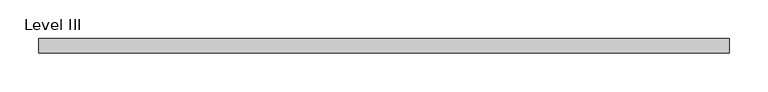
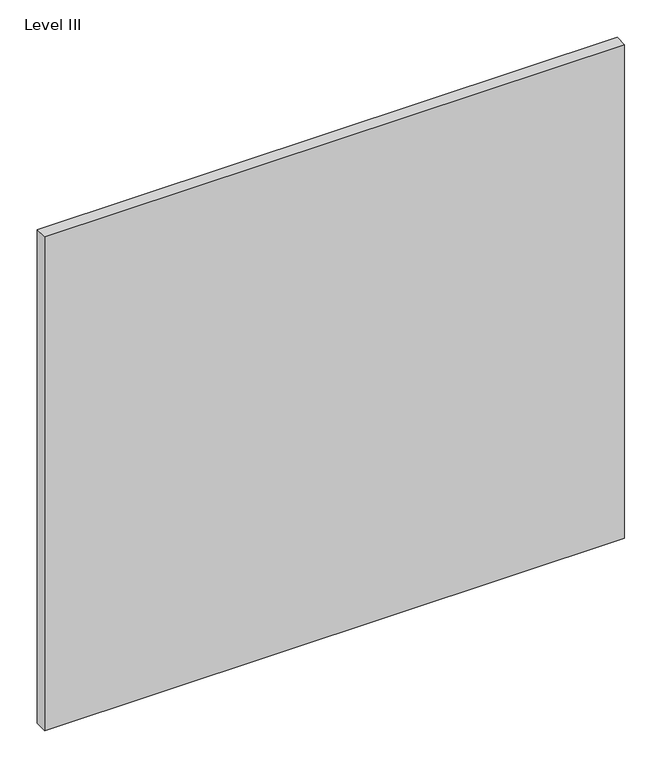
"""IFC4 building model written with IfcOpenShell, lengths in millimetres: proxy geometry, Panel-Fascia-Teknion-Altos-Standard : Level III."""

from ifc_helpers import new_model, si_unit, frame, origin, place, context, project, spatial, polyline, outline, extrude, source, transform, mapped, element, save


def level_iii_3557bc1e(model_context):
    return source(origin(), model_context, "Body", "SweptSolid", [
        extrude(outline(polyline([(447.0300781, 9.525), (447.0300781, -9.525), (-447.0300781, -9.525), (-447.0300781, 9.525), (447.0300781, 9.525)])), frame((0.0, 0.0, 3.175), z_axis=(0.0, 0.0, 1.0), x_axis=(1.0, 0.0, 0.0)), (0.0, 0.0, 1.0), 804.418),
    ])


if __name__ == "__main__":
    model = new_model("IFC4")
    model_context = context("Model", 3, world=origin())
    ifc_project = project(units=[si_unit("LENGTHUNIT", "METRE", prefix="MILLI")], contexts=[model_context])
    site = spatial("IfcSite", under=ifc_project)
    building = spatial("IfcBuilding", under=site)
    placement = place(None, origin())
    level_iii_shape = level_iii_3557bc1e(model_context)
    element("IfcBuildingElementProxy", 1, Name="Panel-Fascia-Teknion-Altos-Standard : Level III", ObjectType="Panel-Fascia-Teknion-Altos-Standard : Level III", at=placement, inside=building, context=model_context, shape_type="MappedRepresentation", body=[
        mapped(level_iii_shape, transform((0.0, 0.0, 0.0), x_axis=(1.0, 0.0, 0.0), y_axis=(0.0, 1.0, 0.0), z_axis=(0.0, 0.0, 1.0))),
    ])
    save(model, "model.ifc")
